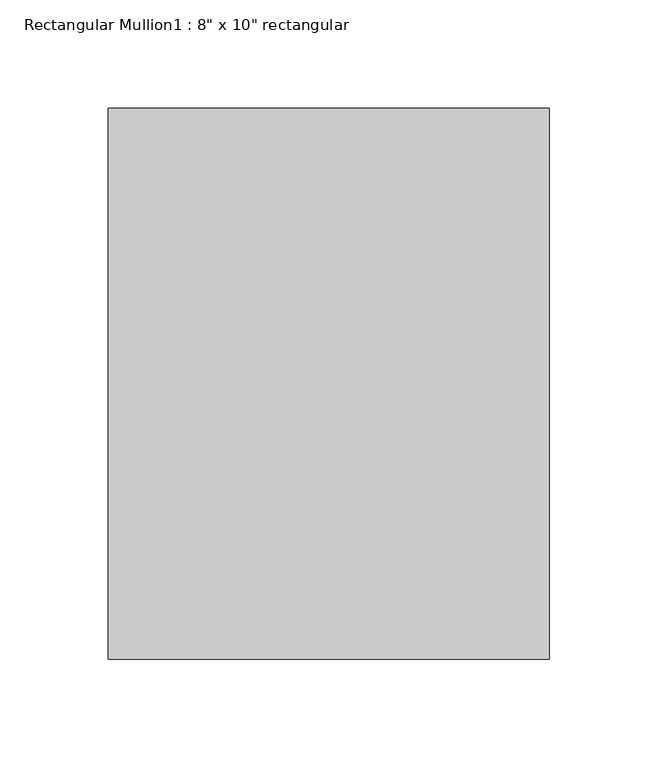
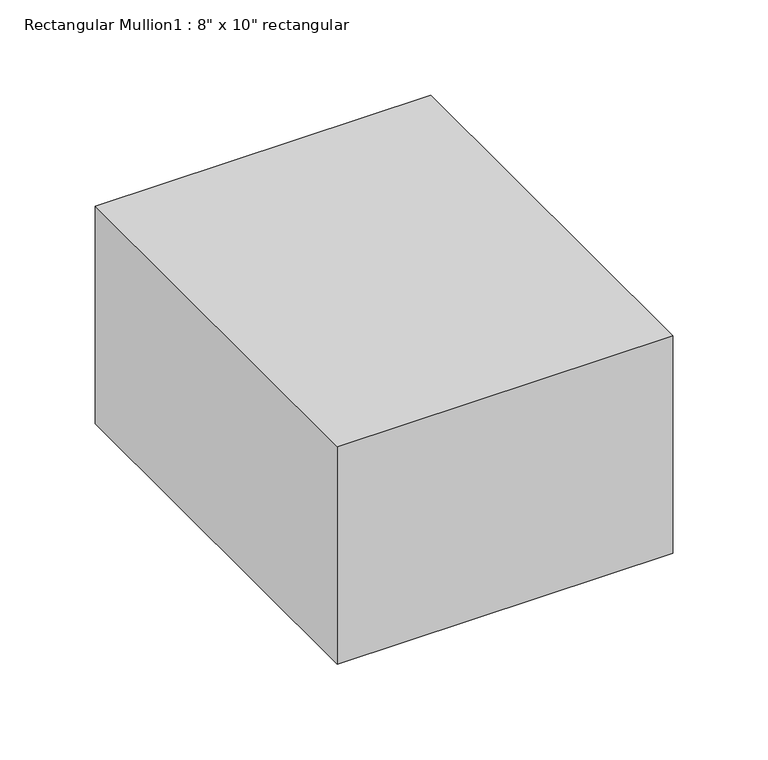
"""IFC4 building model written with IfcOpenShell, lengths in millimetres: member geometry."""

from ifc_helpers import new_model, si_unit, frame, origin, place, context, project, spatial, polyline, outline, extrude, source, transform, mapped, element, save


def member_eb4aacb2(model_context):
    return source(origin(), model_context, "Body", "SweptSolid", [
        extrude(outline(polyline([(101.6, 127.0), (101.6, -127.0), (-101.6, -127.0), (-101.6, 127.0), (101.6, 127.0)])), frame((0.0, 0.0, -139.2998379), z_axis=(0.0, 0.0, 1.0), x_axis=(1.0, 0.0, 0.0)), (0.0, 0.0, 1.0), 139.2998379),
    ])


if __name__ == "__main__":
    model = new_model("IFC4")
    model_context = context("Model", 3, world=origin())
    ifc_project = project(units=[si_unit("LENGTHUNIT", "METRE", prefix="MILLI")], contexts=[model_context])
    site = spatial("IfcSite", under=ifc_project)
    building = spatial("IfcBuilding", under=site)
    placement = place(None, origin())
    member_shape = member_eb4aacb2(model_context)
    element("IfcMember", 1, ObjectType="Rectangular Mullion1 : 8\" x 10\" rectangular", at=placement, inside=building, context=model_context, shape_type="MappedRepresentation", body=[
        mapped(member_shape, transform((0.0, 0.0, 0.0), x_axis=(1.0, 0.0, 0.0), y_axis=(0.0, 1.0, 0.0), z_axis=(0.0, 0.0, 1.0))),
    ])
    save(model, "model.ifc")
